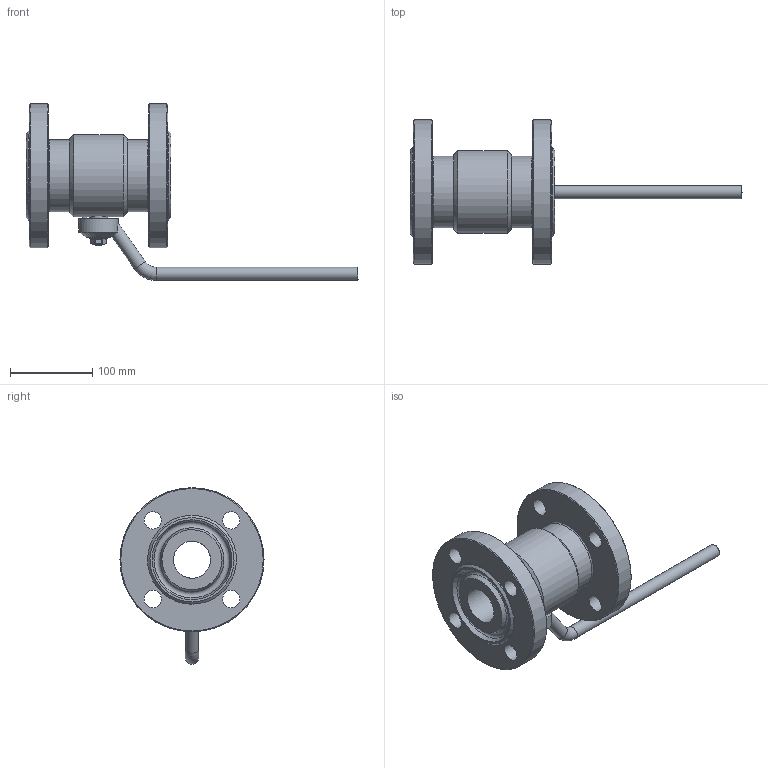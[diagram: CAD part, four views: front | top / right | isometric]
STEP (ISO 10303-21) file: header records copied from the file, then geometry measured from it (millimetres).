
FILE_DESCRIPTION(('STEP AP203'), '1');
FILE_NAME('ZARD 050.063.27.P.stp', '2013-12-06T07:38:53', ('1'), ('1'), 'ASCON STEP Converter 1.3', 'Kompas 3D', '');
FILE_SCHEMA(('CONFIG_CONTROL_DESIGN','SUPPORT_RESOURCE_SCHEMA'));
Length unit declared in the file: millimetre
Products named in the file (1): 166
Bounding box: 403.01 x 175 x 214.5 mm (x, y, z)
Volume: 1652953.2 mm3; surface area: 215368.4 mm2
Topology: 1 solids, 8 shells, 176 faces, 385 edges, 241 vertices
Faces by surface type: plane 78, cylinder 59, cone 27, torus 12
Full cylindrical faces by diameter (mm): 6 x2, 10 x2, 16 x3, 21 x8, 21.8 x1, 22 x2, 45 x2, 48 x1, 73.4 x1, 87 x2, 100 x1, 108 x2, 175 x2
Entity records: 6535 total; most frequent: CARTESIAN_POINT 2489, DIRECTION 864, ORIENTED_EDGE 770, EDGE_CURVE 385, AXIS2_PLACEMENT_3D 346, VERTEX_POINT 241, EDGE_LOOP 216, ADVANCED_FACE 176
